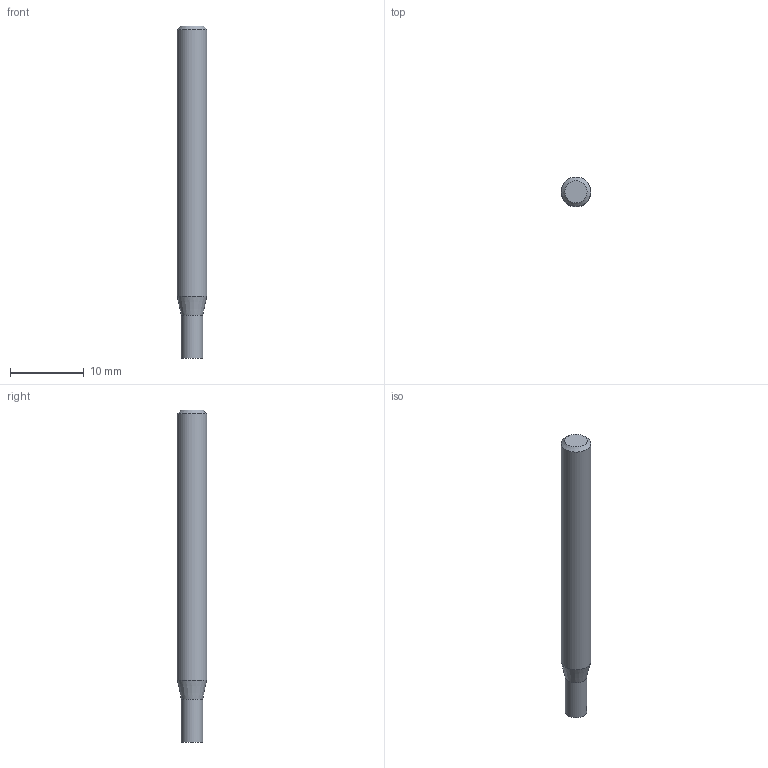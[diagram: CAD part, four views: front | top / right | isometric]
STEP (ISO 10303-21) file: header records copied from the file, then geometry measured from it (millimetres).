
FILE_DESCRIPTION((''),'2;1');
FILE_NAME('C:\Users\nsx150\AppData\Local\Temp\Mastercam 2021\E36A1X9CCL\TEMP.step','2023-04-21T15:12:38',(''),(''),'STEP Write','Mastercam 2021 ... CNC Software, Inc.','');
FILE_SCHEMA(('AUTOMOTIVE_DESIGN'));
Length unit declared in the file: millimetre
Products named in the file (1): None
Bounding box: 4 x 4 x 45 mm (x, y, z)
Volume: 521.3 mm3; surface area: 570 mm2
Topology: 2 solids, 2 shells, 8 faces, 10 edges, 6 vertices
Faces by surface type: plane 4, cylinder 2, cone 2
Full cylindrical faces by diameter (mm): 2.9 x1, 4 x1
Entity records: 190 total; most frequent: DIRECTION 32, CARTESIAN_POINT 22, AXIS2_PLACEMENT_3D 16, ORIENTED_EDGE 12, EDGE_LOOP 12, STYLED_ITEM 11, ADVANCED_FACE 8, VERTEX_POINT 6
